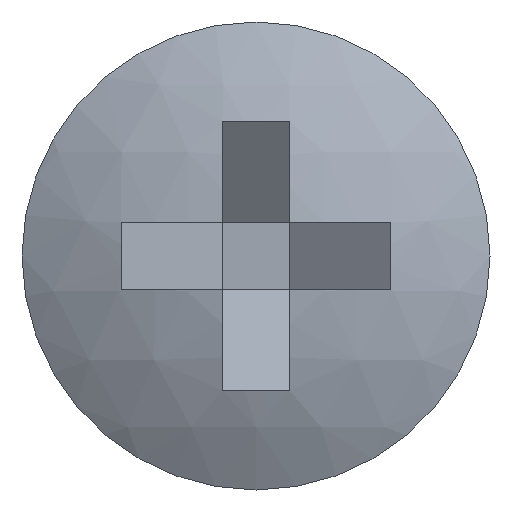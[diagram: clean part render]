
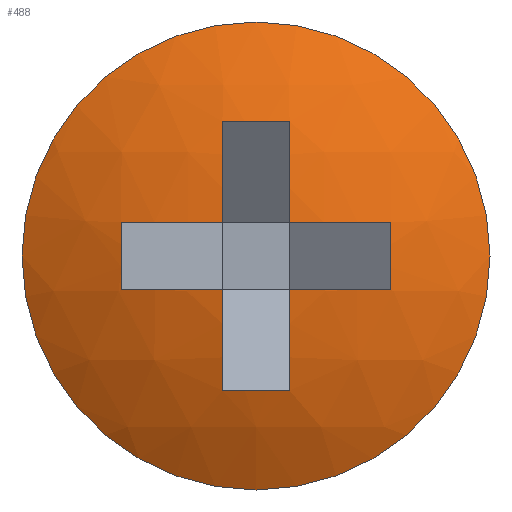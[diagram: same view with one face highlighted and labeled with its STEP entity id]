
A CAD part, left-side view. The second image highlights one B-rep face of the part: STEP entity #488.
In plain terms, the highlighted spherical face has radius 8 mm.
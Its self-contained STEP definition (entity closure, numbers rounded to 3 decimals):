
#84=FACE_BOUND('',#123,.T.);
#86=SPHERICAL_SURFACE('',#537,8.);
#95=FACE_OUTER_BOUND('',#122,.T.);
#122=EDGE_LOOP('',(#373));
#123=EDGE_LOOP('',(#374,#375,#376,#377,#378,#379,#380,#381,#382,#383,#384,
#385));
#215=CIRCLE('',#524,7.662);
#216=CIRCLE('',#526,7.979);
#217=CIRCLE('',#528,7.979);
#218=CIRCLE('',#530,7.979);
#219=CIRCLE('',#532,7.662);
#220=CIRCLE('',#536,7.979);
#221=CIRCLE('',#538,4.);
#222=CIRCLE('',#539,7.979);
#223=CIRCLE('',#540,7.662);
#224=CIRCLE('',#541,7.979);
#225=CIRCLE('',#542,7.979);
#226=CIRCLE('',#543,7.662);
#227=CIRCLE('',#544,7.979);
#242=VERTEX_POINT('',#725);
#243=VERTEX_POINT('',#726);
#246=VERTEX_POINT('',#734);
#247=VERTEX_POINT('',#735);
#250=VERTEX_POINT('',#743);
#251=VERTEX_POINT('',#744);
#254=VERTEX_POINT('',#752);
#257=VERTEX_POINT('',#767);
#258=VERTEX_POINT('',#771);
#259=VERTEX_POINT('',#773);
#260=VERTEX_POINT('',#775);
#261=VERTEX_POINT('',#778);
#262=VERTEX_POINT('',#780);
#281=EDGE_CURVE('',#242,#243,#215,.T.);
#285=EDGE_CURVE('',#246,#247,#216,.T.);
#289=EDGE_CURVE('',#250,#251,#217,.T.);
#293=EDGE_CURVE('',#243,#254,#218,.T.);
#296=EDGE_CURVE('',#251,#246,#219,.T.);
#301=EDGE_CURVE('',#257,#242,#220,.T.);
#303=EDGE_CURVE('',#258,#258,#221,.T.);
#304=EDGE_CURVE('',#254,#259,#222,.T.);
#305=EDGE_CURVE('',#259,#260,#223,.T.);
#306=EDGE_CURVE('',#260,#250,#224,.T.);
#307=EDGE_CURVE('',#247,#261,#225,.T.);
#308=EDGE_CURVE('',#261,#262,#226,.T.);
#309=EDGE_CURVE('',#262,#257,#227,.T.);
#373=ORIENTED_EDGE('',*,*,#303,.F.);
#374=ORIENTED_EDGE('',*,*,#301,.T.);
#375=ORIENTED_EDGE('',*,*,#281,.T.);
#376=ORIENTED_EDGE('',*,*,#293,.T.);
#377=ORIENTED_EDGE('',*,*,#304,.T.);
#378=ORIENTED_EDGE('',*,*,#305,.T.);
#379=ORIENTED_EDGE('',*,*,#306,.T.);
#380=ORIENTED_EDGE('',*,*,#289,.T.);
#381=ORIENTED_EDGE('',*,*,#296,.T.);
#382=ORIENTED_EDGE('',*,*,#285,.T.);
#383=ORIENTED_EDGE('',*,*,#307,.T.);
#384=ORIENTED_EDGE('',*,*,#308,.T.);
#385=ORIENTED_EDGE('',*,*,#309,.T.);
#488=ADVANCED_FACE('',(#95,#84),#86,.T.);
#524=AXIS2_PLACEMENT_3D('',#727,#581,#582);
#526=AXIS2_PLACEMENT_3D('',#736,#588,#589);
#528=AXIS2_PLACEMENT_3D('',#745,#595,#596);
#530=AXIS2_PLACEMENT_3D('',#753,#602,#603);
#532=AXIS2_PLACEMENT_3D('',#758,#608,#609);
#536=AXIS2_PLACEMENT_3D('',#768,#620,#621);
#537=AXIS2_PLACEMENT_3D('',#770,#623,#624);
#538=AXIS2_PLACEMENT_3D('',#772,#625,#626);
#539=AXIS2_PLACEMENT_3D('',#774,#627,#628);
#540=AXIS2_PLACEMENT_3D('',#776,#629,#630);
#541=AXIS2_PLACEMENT_3D('',#777,#631,#632);
#542=AXIS2_PLACEMENT_3D('',#779,#633,#634);
#543=AXIS2_PLACEMENT_3D('',#781,#635,#636);
#544=AXIS2_PLACEMENT_3D('',#782,#637,#638);
#581=DIRECTION('center_axis',(0.,0.,1.));
#582=DIRECTION('ref_axis',(0.,1.,0.));
#588=DIRECTION('center_axis',(0.,1.,0.));
#589=DIRECTION('ref_axis',(0.,0.,-1.));
#595=DIRECTION('center_axis',(0.,-1.,0.));
#596=DIRECTION('ref_axis',(0.,0.,1.));
#602=DIRECTION('center_axis',(0.,-1.,0.));
#603=DIRECTION('ref_axis',(0.,0.,1.));
#608=DIRECTION('center_axis',(0.,0.,-1.));
#609=DIRECTION('ref_axis',(0.,-1.,0.));
#620=DIRECTION('center_axis',(0.,1.,0.));
#621=DIRECTION('ref_axis',(0.,0.,-1.));
#623=DIRECTION('center_axis',(0.,0.,
1.));
#624=DIRECTION('ref_axis',(-1.,-0.027,0.));
#625=DIRECTION('center_axis',(1.,0.,0.));
#626=DIRECTION('ref_axis',(0.,0.,-1.));
#627=DIRECTION('center_axis',(0.,0.,1.));
#628=DIRECTION('ref_axis',(0.,1.,0.));
#629=DIRECTION('center_axis',(0.,-1.,0.));
#630=DIRECTION('ref_axis',(0.,0.,1.));
#631=DIRECTION('center_axis',(0.,0.,-1.));
#632=DIRECTION('ref_axis',(0.,-1.,0.));
#633=DIRECTION('center_axis',(0.,0.,-1.));
#634=DIRECTION('ref_axis',(0.,-1.,0.));
#635=DIRECTION('center_axis',(0.,1.,0.));
#636=DIRECTION('ref_axis',(0.,0.,-1.));
#637=DIRECTION('center_axis',(0.,0.,1.));
#638=DIRECTION('ref_axis',(0.,1.,0.));
#725=CARTESIAN_POINT('',(-2.741,0.575,2.3));
#726=CARTESIAN_POINT('',(-2.741,-0.575,2.3));
#727=CARTESIAN_POINT('Origin',(4.9,0.,2.3));
#734=CARTESIAN_POINT('',(-2.741,0.575,-2.3));
#735=CARTESIAN_POINT('',(-3.059,0.575,-0.575));
#736=CARTESIAN_POINT('Origin',(4.9,0.575,0.));
#743=CARTESIAN_POINT('',(-3.059,-0.575,-0.575));
#744=CARTESIAN_POINT('',(-2.741,-0.575,-2.3));
#745=CARTESIAN_POINT('Origin',(4.9,-0.575,0.));
#752=CARTESIAN_POINT('',(-3.059,-0.575,0.575));
#753=CARTESIAN_POINT('Origin',(4.9,-0.575,0.));
#758=CARTESIAN_POINT('Origin',(4.9,0.,-2.3));
#767=CARTESIAN_POINT('',(-3.059,0.575,0.575));
#768=CARTESIAN_POINT('Origin',(4.9,0.575,0.));
#770=CARTESIAN_POINT('Origin',(4.9,0.,0.));
#771=CARTESIAN_POINT('',(-2.028,-4.,0.));
#772=CARTESIAN_POINT('Origin',(-2.028,0.,0.));
#773=CARTESIAN_POINT('',(-2.741,-2.3,0.575));
#774=CARTESIAN_POINT('Origin',(4.9,0.,0.575));
#775=CARTESIAN_POINT('',(-2.741,-2.3,-0.575));
#776=CARTESIAN_POINT('Origin',(4.9,-2.3,0.));
#777=CARTESIAN_POINT('Origin',(4.9,0.,-0.575));
#778=CARTESIAN_POINT('',(-2.741,2.3,-0.575));
#779=CARTESIAN_POINT('Origin',(4.9,0.,-0.575));
#780=CARTESIAN_POINT('',(-2.741,2.3,0.575));
#781=CARTESIAN_POINT('Origin',(4.9,2.3,0.));
#782=CARTESIAN_POINT('Origin',(4.9,0.,0.575));
